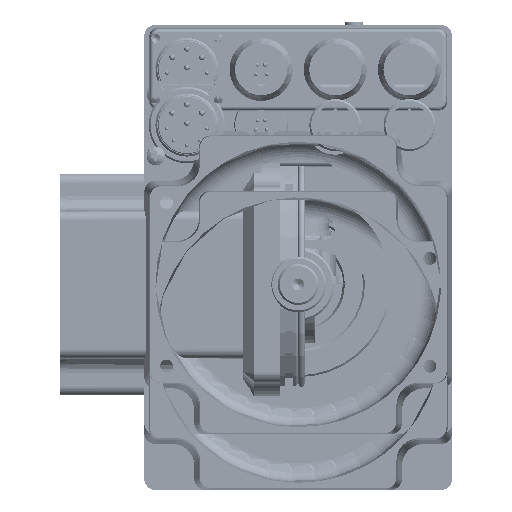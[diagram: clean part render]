
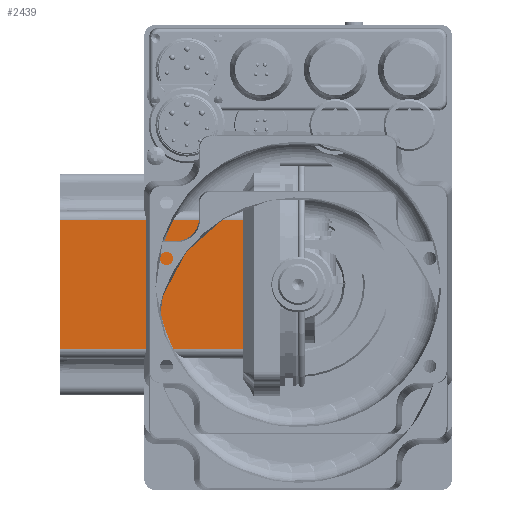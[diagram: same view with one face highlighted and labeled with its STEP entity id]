
A CAD part, front view. The second image highlights one B-rep face of the part: STEP entity #2439.
In plain terms, the highlighted planar face has unit normal (-0.003, -1, 0).
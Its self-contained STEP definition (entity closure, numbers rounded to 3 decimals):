
#2439 = ADVANCED_FACE( '', ( #6364 ), #6365, .T. );
#6364 = FACE_OUTER_BOUND( '', #13932, .T. );
#6365 = PLANE( '', #13933 );
#13932 = EDGE_LOOP( '', ( #29770, #29771, #29772, #29773 ) );
#13933 = AXIS2_PLACEMENT_3D( '', #29774, #29775, #29776 );
#29770 = ORIENTED_EDGE( '', *, *, #40112, .T. );
#29771 = ORIENTED_EDGE( '', *, *, #39469, .T. );
#29772 = ORIENTED_EDGE( '', *, *, #40113, .T. );
#29773 = ORIENTED_EDGE( '', *, *, #40114, .T. );
#29774 = CARTESIAN_POINT( '', ( -6., -30., 0. ) );
#29775 = DIRECTION( '', ( -0.003, -1., 0. ) );
#29776 = DIRECTION( '', ( 1., -0.003, 0. ) );
#39469 = EDGE_CURVE( '', #45107, #45105, #45108, .T. );
#40112 = EDGE_CURVE( '', #46149, #45107, #46150, .T. );
#40113 = EDGE_CURVE( '', #45105, #46151, #46152, .T. );
#40114 = EDGE_CURVE( '', #46151, #46149, #46153, .T. );
#45105 = VERTEX_POINT( '', #59624 );
#45107 = VERTEX_POINT( '', #59626 );
#45108 = LINE( '', #59627, #59628 );
#46149 = VERTEX_POINT( '', #61406 );
#46150 = LINE( '', #61407, #61408 );
#46151 = VERTEX_POINT( '', #61409 );
#46152 = LINE( '', #61410, #61411 );
#46153 = LINE( '', #61412, #61413 );
#59624 = CARTESIAN_POINT( '', ( -6.75, -29.998, 17.498 ) );
#59626 = CARTESIAN_POINT( '', ( -6.75, -29.998, -17.498 ) );
#59627 = CARTESIAN_POINT( '', ( -6.75, -29.998, 0. ) );
#59628 = VECTOR( '', #69549, 1000. );
#61406 = CARTESIAN_POINT( '', ( -64.25, -29.831, -17.331 ) );
#61407 = CARTESIAN_POINT( '', ( -5.993, -30., -17.5 ) );
#61408 = VECTOR( '', #70450, 1000. );
#61409 = CARTESIAN_POINT( '', ( -64.25, -29.831, 17.331 ) );
#61410 = CARTESIAN_POINT( '', ( -89.993, -29.756, 17.256 ) );
#61411 = VECTOR( '', #70451, 1000. );
#61412 = CARTESIAN_POINT( '', ( -64.25, -29.831, 0. ) );
#61413 = VECTOR( '', #70452, 1000. );
#69549 = DIRECTION( '', ( 0., 0., 1. ) );
#70450 = DIRECTION( '', ( 1., -0.003, -0.003 ) );
#70451 = DIRECTION( '', ( -1., 0.003, -0.003 ) );
#70452 = DIRECTION( '', ( 0., 0., -1. ) );
